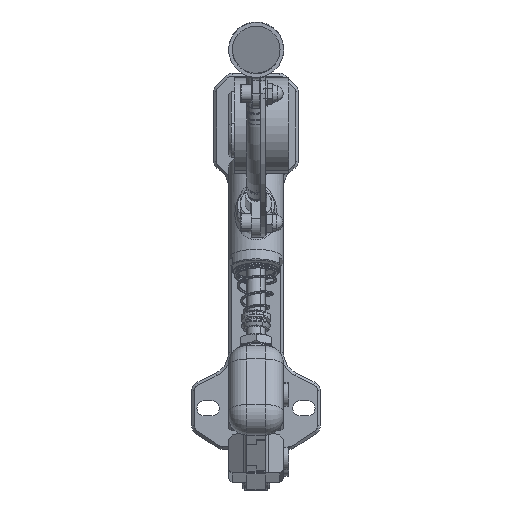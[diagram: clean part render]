
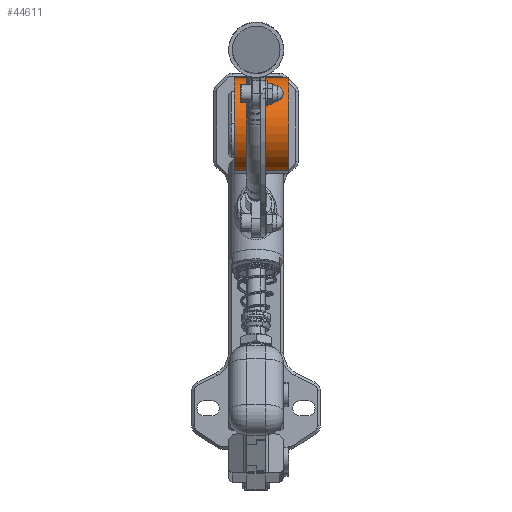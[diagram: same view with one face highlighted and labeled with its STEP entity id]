
A CAD part, top view. The second image highlights one B-rep face of the part: STEP entity #44611.
In plain terms, the highlighted cylindrical face has radius 26 mm (diameter 52 mm), a partial arc.
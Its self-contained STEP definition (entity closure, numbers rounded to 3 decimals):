
#44375=CARTESIAN_POINT('Axis2P3D Location',(18.,0.,0.)) ;
#44379=CARTESIAN_POINT('Vertex',(18.,26.,0.)) ;
#44381=CARTESIAN_POINT('Vertex',(18.,-26.,0.)) ;
#44534=CARTESIAN_POINT('Vertex',(-12.,-26.,0.)) ;
#44536=CARTESIAN_POINT('Vertex',(-12.,26.,0.)) ;
#44539=CARTESIAN_POINT('Axis2P3D Location',(-12.,0.,0.)) ;
#44549=CARTESIAN_POINT('Axis2P3D Location',(3.,0.,0.)) ;
#44554=CARTESIAN_POINT('Line Origine',(3.,-26.,0.)) ;
#44559=CARTESIAN_POINT('Line Origine',(3.,26.,0.)) ;
#44556=VECTOR('Line Direction',#44555,1.) ;
#44561=VECTOR('Line Direction',#44560,1.) ;
#44376=DIRECTION('Axis2P3D Direction',(1.,0.,0.)) ;
#44540=DIRECTION('Axis2P3D Direction',(1.,0.,0.)) ;
#44550=DIRECTION('Axis2P3D Direction',(1.,0.,0.)) ;
#44551=DIRECTION('Axis2P3D XDirection',(0.,1.,0.)) ;
#44555=DIRECTION('Vector Direction',(1.,0.,0.)) ;
#44560=DIRECTION('Vector Direction',(1.,0.,0.)) ;
#44377=AXIS2_PLACEMENT_3D('Circle Axis2P3D',#44375,#44376,$) ;
#44541=AXIS2_PLACEMENT_3D('Circle Axis2P3D',#44539,#44540,$) ;
#44552=AXIS2_PLACEMENT_3D('Cylinder Axis2P3D',#44549,#44550,#44551) ;
#44557=LINE('Line',#44554,#44556) ;
#44562=LINE('Line',#44559,#44561) ;
#44378=CIRCLE('generated circle',#44377,26.) ;
#44542=CIRCLE('generated circle',#44541,26.) ;
#44553=CYLINDRICAL_SURFACE('generated cylinder',#44552,26.) ;
#44383=EDGE_CURVE('',#44380,#44382,#44378,.T.) ;
#44543=EDGE_CURVE('',#44537,#44535,#44542,.T.) ;
#44558=EDGE_CURVE('',#44535,#44382,#44557,.T.) ;
#44563=EDGE_CURVE('',#44537,#44380,#44562,.T.) ;
#44605=EDGE_LOOP('',(#44606,#44607,#44608,#44609)) ;
#44606=ORIENTED_EDGE('',*,*,#44563,.F.) ;
#44607=ORIENTED_EDGE('',*,*,#44543,.T.) ;
#44608=ORIENTED_EDGE('',*,*,#44558,.T.) ;
#44609=ORIENTED_EDGE('',*,*,#44383,.F.) ;
#44380=VERTEX_POINT('',#44379) ;
#44382=VERTEX_POINT('',#44381) ;
#44535=VERTEX_POINT('',#44534) ;
#44537=VERTEX_POINT('',#44536) ;
#44611=ADVANCED_FACE('Corps principal',(#44610),#44553,.T.) ;
#44610=FACE_OUTER_BOUND('',#44605,.T.) ;
